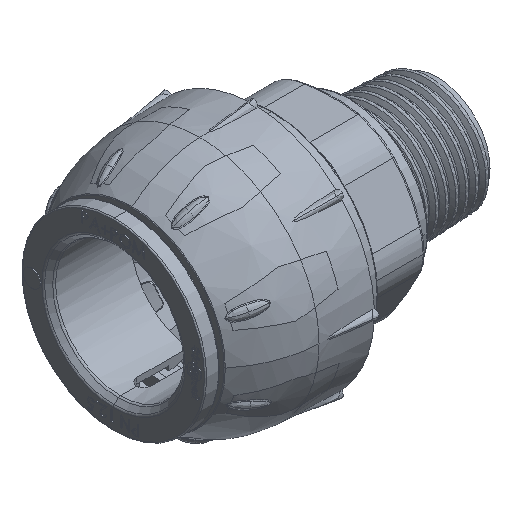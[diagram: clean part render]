
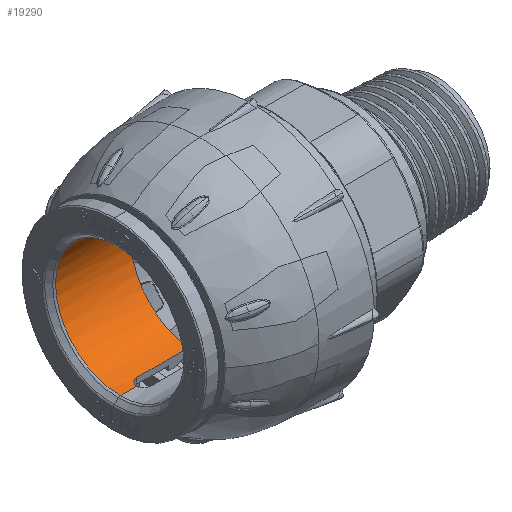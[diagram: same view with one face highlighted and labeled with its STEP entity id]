
A CAD part, isometric view. The second image highlights one B-rep face of the part: STEP entity #19290.
In plain terms, the highlighted cylindrical face has radius 11.25 mm (diameter 22.5 mm), a partial arc.
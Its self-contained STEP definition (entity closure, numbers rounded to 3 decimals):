
#1137 = B_SPLINE_CURVE_WITH_KNOTS ( 'NONE', 3,
 ( #18847, #23881, #10693, #48317, #28938, #38737, #19476, #29567, #34147, #19699, #38944, #43756 ),
 .UNSPECIFIED., .F., .F.,
 ( 4, 2, 2, 2, 2, 4 ),
 ( 0.002, 0.002, 0.002, 0.003, 0.003, 0.004 ),
 .UNSPECIFIED. ) ;
#1168 = DIRECTION ( 'NONE',  ( -1., 0., 0. ) ) ;
#1420 = AXIS2_PLACEMENT_3D ( 'NONE', #18718, #12643, #8035 ) ;
#2431 = LINE ( 'NONE', #49693, #10700 ) ;
#2748 = CIRCLE ( 'NONE', #19393, 11.25 ) ;
#2784 = ORIENTED_EDGE ( 'NONE', *, *, #44355, .F. ) ;
#3593 = EDGE_CURVE ( 'NONE', #12647, #56511, #59472, .T. ) ;
#6939 = EDGE_CURVE ( 'NONE', #12094, #12647, #8410, .T. ) ;
#7052 = EDGE_CURVE ( 'NONE', #32012, #48023, #1137, .T. ) ;
#8035 = DIRECTION ( 'NONE',  ( 0., 1., 0. ) ) ;
#8410 = CIRCLE ( 'NONE', #60485, 11.25 ) ;
#8452 = EDGE_CURVE ( 'NONE', #32012, #47045, #15813, .T. ) ;
#8532 = ORIENTED_EDGE ( 'NONE', *, *, #6939, .F. ) ;
#9175 = DIRECTION ( 'NONE',  ( 1., 0., 0. ) ) ;
#10693 = CARTESIAN_POINT ( 'NONE',  ( -4.058, -11.249, -0.164 ) ) ;
#10700 = VECTOR ( 'NONE', #1168, 1000. ) ;
#11124 = ORIENTED_EDGE ( 'NONE', *, *, #61842, .F. ) ;
#12094 = VERTEX_POINT ( 'NONE', #35986 ) ;
#12643 = DIRECTION ( 'NONE',  ( 1., 0., 0. ) ) ;
#12647 = VERTEX_POINT ( 'NONE', #14746 ) ;
#12988 = CARTESIAN_POINT ( 'NONE',  ( -5.3, 11.18, -1.25 ) ) ;
#13396 = CARTESIAN_POINT ( 'NONE',  ( -5.135, 11.18, -1.25 ) ) ;
#13671 = DIRECTION ( 'NONE',  ( 1., 0., 0. ) ) ;
#14050 = CARTESIAN_POINT ( 'NONE',  ( -5.3, -11.18, -1.25 ) ) ;
#14636 = EDGE_CURVE ( 'NONE', #47045, #17960, #2748, .T. ) ;
#14746 = CARTESIAN_POINT ( 'NONE',  ( -14.3, 11.18, -1.25 ) ) ;
#15813 = LINE ( 'NONE', #23969, #58454 ) ;
#16355 = LINE ( 'NONE', #17155, #46982 ) ;
#17155 = CARTESIAN_POINT ( 'NONE',  ( 0., 11.25, 0. ) ) ;
#17960 = VERTEX_POINT ( 'NONE', #21291 ) ;
#18162 = CARTESIAN_POINT ( 'NONE',  ( -5.3, 11.18, -1.25 ) ) ;
#18718 = CARTESIAN_POINT ( 'NONE',  ( 0., 0., 0. ) ) ;
#18847 = CARTESIAN_POINT ( 'NONE',  ( -4.05, -11.25, 0. ) ) ;
#19290 = ADVANCED_FACE ( 'NONE', ( #56345 ), #32450, .F. ) ;
#19393 = AXIS2_PLACEMENT_3D ( 'NONE', #33763, #24780, #58184 ) ;
#19476 = CARTESIAN_POINT ( 'NONE',  ( -4.299, -11.224, -0.767 ) ) ;
#19699 = CARTESIAN_POINT ( 'NONE',  ( -4.972, -11.184, -1.217 ) ) ;
#20346 = CARTESIAN_POINT ( 'NONE',  ( -4.05, 11.25, 0. ) ) ;
#21291 = CARTESIAN_POINT ( 'NONE',  ( -1.207, 11.25, 0. ) ) ;
#22828 = VECTOR ( 'NONE', #32038, 1000. ) ;
#23531 = CARTESIAN_POINT ( 'NONE',  ( -14.3, 0., 0. ) ) ;
#23881 = CARTESIAN_POINT ( 'NONE',  ( -4.05, -11.25, -0.082 ) ) ;
#23969 = CARTESIAN_POINT ( 'NONE',  ( 0., -11.25, 0. ) ) ;
#24780 = DIRECTION ( 'NONE',  ( 1., 0., 0. ) ) ;
#27442 = CARTESIAN_POINT ( 'NONE',  ( 0., 11.18, -1.25 ) ) ;
#28083 = CARTESIAN_POINT ( 'NONE',  ( -4.972, 11.184, -1.217 ) ) ;
#28180 = DIRECTION ( 'NONE',  ( 1., 0., 0. ) ) ;
#28938 = CARTESIAN_POINT ( 'NONE',  ( -4.114, -11.243, -0.403 ) ) ;
#29567 = CARTESIAN_POINT ( 'NONE',  ( -4.532, -11.206, -1. ) ) ;
#31699 = CARTESIAN_POINT ( 'NONE',  ( -1.207, -11.25, 0. ) ) ;
#32012 = VERTEX_POINT ( 'NONE', #50730 ) ;
#32038 = DIRECTION ( 'NONE',  ( 1., 0., 0. ) ) ;
#32050 = CARTESIAN_POINT ( 'NONE',  ( -4.05, 11.25, -0.163 ) ) ;
#32450 = CYLINDRICAL_SURFACE ( 'NONE', #1420, 11.25 ) ;
#32464 = CARTESIAN_POINT ( 'NONE',  ( -4.083, 11.246, -0.328 ) ) ;
#33572 = VERTEX_POINT ( 'NONE', #20346 ) ;
#33763 = CARTESIAN_POINT ( 'NONE',  ( -1.207, 0., 0. ) ) ;
#34147 = CARTESIAN_POINT ( 'NONE',  ( -4.67, -11.197, -1.092 ) ) ;
#35986 = CARTESIAN_POINT ( 'NONE',  ( -14.3, -11.18, -1.25 ) ) ;
#36881 = CARTESIAN_POINT ( 'NONE',  ( -4.05, 11.25, 0. ) ) ;
#38737 = CARTESIAN_POINT ( 'NONE',  ( -4.208, -11.233, -0.63 ) ) ;
#38944 = CARTESIAN_POINT ( 'NONE',  ( -5.135, -11.18, -1.25 ) ) ;
#40427 = ORIENTED_EDGE ( 'NONE', *, *, #8452, .T. ) ;
#42076 = CARTESIAN_POINT ( 'NONE',  ( -4.531, 11.206, -0.999 ) ) ;
#43712 = ORIENTED_EDGE ( 'NONE', *, *, #3593, .F. ) ;
#43756 = CARTESIAN_POINT ( 'NONE',  ( -5.3, -11.18, -1.25 ) ) ;
#44355 = EDGE_CURVE ( 'NONE', #33572, #17960, #16355, .T. ) ;
#46233 = CARTESIAN_POINT ( 'NONE',  ( -4.207, 11.233, -0.629 ) ) ;
#46982 = VECTOR ( 'NONE', #9175, 1000. ) ;
#47045 = VERTEX_POINT ( 'NONE', #31699 ) ;
#48023 = VERTEX_POINT ( 'NONE', #14050 ) ;
#48317 = CARTESIAN_POINT ( 'NONE',  ( -4.09, -11.246, -0.325 ) ) ;
#49693 = CARTESIAN_POINT ( 'NONE',  ( 0., -11.18, -1.25 ) ) ;
#50730 = CARTESIAN_POINT ( 'NONE',  ( -4.05, -11.25, 0. ) ) ;
#50928 = ORIENTED_EDGE ( 'NONE', *, *, #14636, .T. ) ;
#51658 = CARTESIAN_POINT ( 'NONE',  ( -4.301, 11.224, -0.768 ) ) ;
#51919 = DIRECTION ( 'NONE',  ( 0., 1., 0. ) ) ;
#52381 = ORIENTED_EDGE ( 'NONE', *, *, #52398, .F. ) ;
#52398 = EDGE_CURVE ( 'NONE', #48023, #12094, #2431, .T. ) ;
#52696 = ORIENTED_EDGE ( 'NONE', *, *, #7052, .F. ) ;
#53672 = EDGE_LOOP ( 'NONE', ( #52696, #40427, #50928, #2784, #11124, #43712, #8532, #52381 ) ) ;
#55840 = CARTESIAN_POINT ( 'NONE',  ( -4.67, 11.197, -1.092 ) ) ;
#56345 = FACE_OUTER_BOUND ( 'NONE', #53672, .T. ) ;
#56511 = VERTEX_POINT ( 'NONE', #18162 ) ;
#57515 = B_SPLINE_CURVE_WITH_KNOTS ( 'NONE', 3,
 ( #12988, #13396, #28083, #55840, #42076, #51658, #46233, #32464, #32050, #36881 ),
 .UNSPECIFIED., .F., .F.,
 ( 4, 2, 2, 2, 4 ),
 ( 0., 0., 0.001, 0.001, 0.002 ),
 .UNSPECIFIED. ) ;
#58184 = DIRECTION ( 'NONE',  ( 0., -1., 0. ) ) ;
#58454 = VECTOR ( 'NONE', #28180, 1000. ) ;
#59472 = LINE ( 'NONE', #27442, #22828 ) ;
#60485 = AXIS2_PLACEMENT_3D ( 'NONE', #23531, #13671, #51919 ) ;
#61842 = EDGE_CURVE ( 'NONE', #56511, #33572, #57515, .T. ) ;
